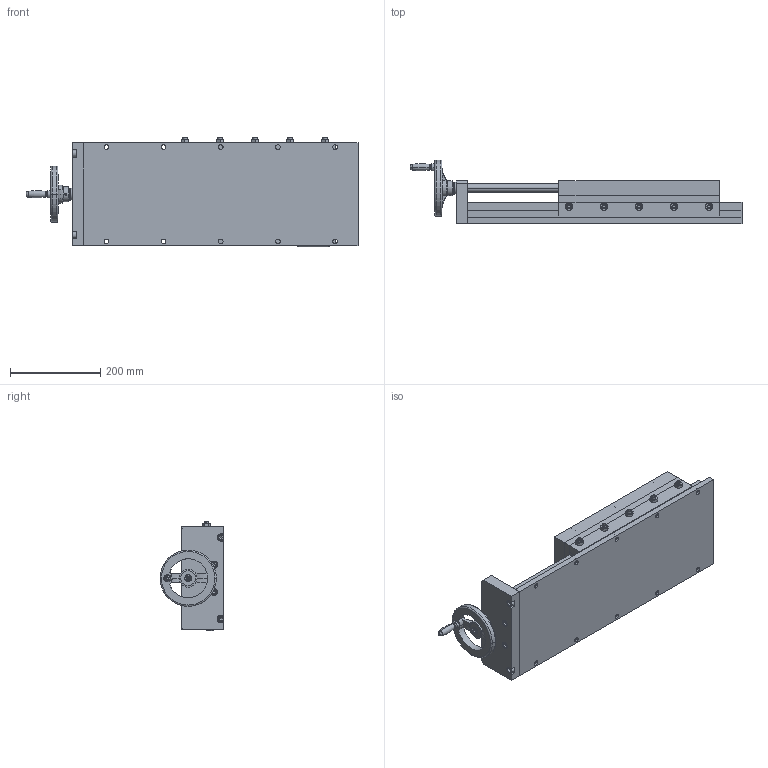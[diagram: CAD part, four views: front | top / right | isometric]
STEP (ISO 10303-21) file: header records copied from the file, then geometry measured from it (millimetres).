
FILE_DESCRIPTION (( 'STEP AP214' ), '1' );
FILE_NAME ('SW09-SL14-BL24-LS.STEP', '2011-11-04T18:40:41', ( '' ), ( '' ), 'SwSTEP 2.0', 'SolidWorks 2011', '' );
FILE_SCHEMA (( 'AUTOMOTIVE_DESIGN' ));
Length unit declared in the file: inch
Products named in the file (25): socket head cap screw_ai_HX-SHCS 0.25-20x0.5x0.5-N; EW-20; AHTNK125; 6681K11; Gen2 End Plate_09 EPLATE; socket head cap screw_ai_HX-SHCS 0.375-16x0.75x0.75-N; EW-40; Lead Screw_3_4-6 x 11.38 Lg; spring pin slotted_ai_SPS 0.1875x1.25; Lead Nut_3_4-6; socket head cap screw_ai_HX-SHCS 0.375-16x1.25x1.25-N; Gen2 Nut Plate_09x14 NPLATE; Gen2 SLIDE_SW09-SL14-BL24; Gen2 SADDLE_09x14 SADDLE; machine screw nut hex_ai_MSHXNUT 0.375-24-D-N; socket set screw cup point_ai_SSCUPSKT 0.375-24x1.25-HX-N; Tag; Gen2 Bar_09x14 BAR; Gen2 Adj Gib_09x14 ADJ GIB; Gen2 Gib_09x14 GIB; Gen2 Top plate_09x14 TPLATE; Gen2 BASE_09x24 BASE; Gen2 Hardplate_09x24 HPLATE; Gen2 Baseplate_09x24 BASE; SW09-SL14-BL24-LS
Assembly tree (43 placements, depth 4):
  SW09-SL14-BL24-LS
    EW-20
    Lead Screw_3_4-6 x 11.38 Lg
    6681K11  x2
    EW-40
    socket head cap screw_ai_HX-SHCS 0.375-16x1.25x1.25-N  x10
    Gen2 End Plate_09 EPLATE
    Lead Nut_3_4-6
    spring pin slotted_ai_SPS 0.1875x1.25  x2
    Gen2 Nut Plate_09x14 NPLATE
    socket head cap screw_ai_HX-SHCS 0.375-16x0.75x0.75-N
    socket head cap screw_ai_HX-SHCS 0.25-20x0.5x0.5-N
    AHTNK125
    Gen2 SLIDE_SW09-SL14-BL24
      Gen2 SADDLE_09x14 SADDLE
        machine screw nut hex_ai_MSHXNUT 0.375-24-D-N  x5
        socket set screw cup point_ai_SSCUPSKT 0.375-24x1.25-HX-N  x5
        Gen2 Bar_09x14 BAR
        Tag
        Gen2 Gib_09x14 GIB
        Gen2 Adj Gib_09x14 ADJ GIB
        Gen2 Top plate_09x14 TPLATE
      Gen2 BASE_09x24 BASE
        Gen2 Hardplate_09x24 HPLATE
        Gen2 Baseplate_09x24 BASE
Bounding box: 737.24 x 141.88 x 242.49 mm (x, y, z)
Volume: 10428472.4 mm3; surface area: 1477113.2 mm2
Topology: 69 solids, 69 shells, 1120 faces, 2694 edges, 1553 vertices
Faces by surface type: plane 427, cylinder 297, cone 220, bspline 116, torus 58, sphere 2
Entity records: 22867 total; most frequent: CARTESIAN_POINT 6587, DIRECTION 3127, ORIENTED_EDGE 2804, EDGE_CURVE 1402, AXIS2_PLACEMENT_3D 1250, VERTEX_POINT 899, EDGE_LOOP 775, CIRCLE 643
